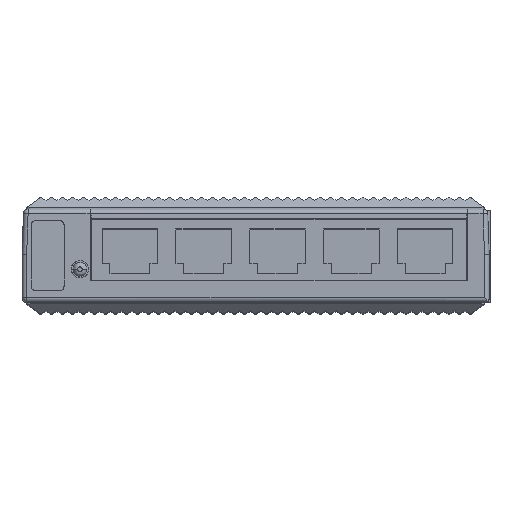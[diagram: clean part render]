
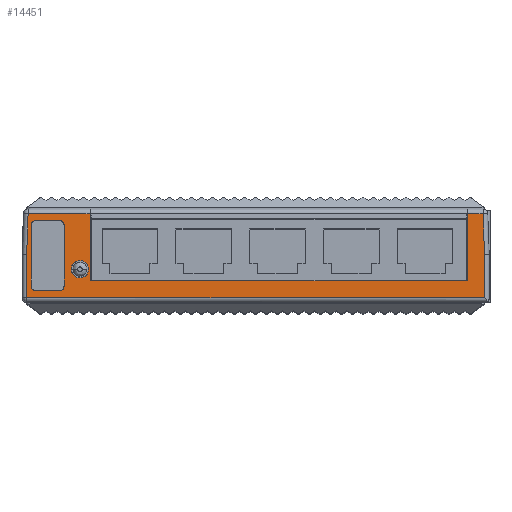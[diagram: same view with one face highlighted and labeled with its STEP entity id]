
A CAD part, top view. The second image highlights one B-rep face of the part: STEP entity #14451.
In plain terms, the highlighted planar face has unit normal (0, 0, 1).
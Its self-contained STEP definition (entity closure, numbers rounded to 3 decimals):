
#194=DIRECTION('',(1.,0.,0.));
#195=VECTOR('',#194,98.);
#196=CARTESIAN_POINT('',(-49.,-9.,39.));
#197=LINE('',#196,#195);
#225=CARTESIAN_POINT('',(-49.,0.233,39.));
#227=DIRECTION('',(0.,-1.,0.));
#228=VECTOR('',#227,9.233);
#229=CARTESIAN_POINT('',(-49.,0.233,39.));
#230=LINE('',#229,#228);
#3126=DIRECTION('',(0.,1.,0.));
#3127=VECTOR('',#3126,9.233);
#3128=CARTESIAN_POINT('',(49.,-9.,39.));
#3129=LINE('',#3128,#3127);
#3146=DIRECTION('',(-0.035,0.999,0.));
#3147=VECTOR('',#3146,8.773);
#3148=CARTESIAN_POINT('',(49.,0.233,39.));
#3149=LINE('',#3148,#3147);
#3161=CARTESIAN_POINT('',(49.,0.233,39.));
#3163=CARTESIAN_POINT('',(-42.,6.5,39.));
#3164=DIRECTION('',(0.,0.,1.));
#3165=DIRECTION('',(1.,0.,0.));
#3166=AXIS2_PLACEMENT_3D('',#3163,#3164,#3165);
#3168=DIRECTION('',(-1.,0.,0.));
#3169=VECTOR('',#3168,5.);
#3170=CARTESIAN_POINT('',(-42.,7.526,39.));
#3171=LINE('',#3170,#3169);
#3172=CARTESIAN_POINT('',(-47.,6.5,39.));
#3173=DIRECTION('',(0.,0.,1.));
#3174=DIRECTION('',(0.,1.,0.));
#3175=AXIS2_PLACEMENT_3D('',#3172,#3173,#3174);
#3177=DIRECTION('',(0.,-1.,0.));
#3178=VECTOR('',#3177,13.);
#3179=CARTESIAN_POINT('',(-48.026,6.5,39.));
#3180=LINE('',#3179,#3178);
#3181=CARTESIAN_POINT('',(-47.,-6.5,39.));
#3182=DIRECTION('',(0.,0.,1.));
#3183=DIRECTION('',(-1.,0.,0.));
#3184=AXIS2_PLACEMENT_3D('',#3181,#3182,#3183);
#3186=DIRECTION('',(1.,0.,0.));
#3187=VECTOR('',#3186,5.);
#3188=CARTESIAN_POINT('',(-47.,-7.526,39.));
#3189=LINE('',#3188,#3187);
#3190=CARTESIAN_POINT('',(-42.,-6.5,39.));
#3191=DIRECTION('',(0.,0.,1.));
#3192=DIRECTION('',(0.,-1.,0.));
#3193=AXIS2_PLACEMENT_3D('',#3190,#3191,#3192);
#3195=DIRECTION('',(1.,0.,0.));
#3196=VECTOR('',#3195,80.862);
#3197=CARTESIAN_POINT('',(-35.431,-5.384,39.));
#3198=LINE('',#3197,#3196);
#3199=DIRECTION('',(0.035,0.999,0.));
#3200=VECTOR('',#3199,8.773);
#3201=CARTESIAN_POINT('',(-49.,0.233,39.));
#3202=LINE('',#3201,#3200);
#3203=DIRECTION('',(0.,-1.,0.));
#3204=VECTOR('',#3203,13.);
#3205=CARTESIAN_POINT('',(-40.974,6.5,39.));
#3206=LINE('',#3205,#3204);
#3275=CARTESIAN_POINT('',(-37.6,-2.9,39.));
#3276=DIRECTION('',(0.,0.,-1.));
#3277=DIRECTION('',(-0.774,0.634,0.));
#3278=AXIS2_PLACEMENT_3D('',#3275,#3276,#3277);
#3324=CARTESIAN_POINT('',(-37.8,-2.9,39.));
#3325=DIRECTION('',(0.,0.,-1.));
#3326=DIRECTION('',(-0.724,-0.689,0.));
#3327=AXIS2_PLACEMENT_3D('',#3324,#3325,#3326);
#3477=CARTESIAN_POINT('',(45.431,9.,39.));
#3485=DIRECTION('',(0.,-1.,0.));
#3486=VECTOR('',#3485,14.384);
#3487=CARTESIAN_POINT('',(45.431,9.,39.));
#3488=LINE('',#3487,#3486);
#3497=DIRECTION('',(0.,1.,0.));
#3498=VECTOR('',#3497,14.384);
#3499=CARTESIAN_POINT('',(-35.431,-5.384,39.));
#3500=LINE('',#3499,#3498);
#3501=CARTESIAN_POINT('',(-35.431,9.,39.));
#3518=DIRECTION('',(-1.,0.,0.));
#3519=VECTOR('',#3518,3.263);
#3520=CARTESIAN_POINT('',(48.694,9.,39.));
#3521=LINE('',#3520,#3519);
#3522=DIRECTION('',(-1.,0.,0.));
#3523=VECTOR('',#3522,13.263);
#3524=CARTESIAN_POINT('',(-35.431,9.,39.));
#3525=LINE('',#3524,#3523);
#7841=CARTESIAN_POINT('',(-48.694,9.,39.));
#7842=VERTEX_POINT('',#7841);
#7847=CARTESIAN_POINT('',(48.694,9.,39.));
#7848=VERTEX_POINT('',#7847);
#7850=VERTEX_POINT('',#225);
#7852=VERTEX_POINT('',#3161);
#7857=CARTESIAN_POINT('',(-49.,-9.,39.));
#7858=VERTEX_POINT('',#7857);
#8166=CARTESIAN_POINT('',(49.,-9.,39.));
#8167=VERTEX_POINT('',#8166);
#8760=VERTEX_POINT('',#3477);
#8762=VERTEX_POINT('',#3501);
#8808=CARTESIAN_POINT('',(-39.035,-1.725,39.));
#8809=CARTESIAN_POINT('',(-39.035,-4.075,39.));
#8810=VERTEX_POINT('',#8808);
#8811=VERTEX_POINT('',#8809);
#9080=CARTESIAN_POINT('',(-47.,7.526,39.));
#9081=CARTESIAN_POINT('',(-48.026,6.5,39.));
#9082=VERTEX_POINT('',#9080);
#9083=VERTEX_POINT('',#9081);
#9084=CARTESIAN_POINT('',(-48.026,-6.5,39.));
#9085=VERTEX_POINT('',#9084);
#9086=CARTESIAN_POINT('',(-47.,-7.526,39.));
#9087=VERTEX_POINT('',#9086);
#9088=CARTESIAN_POINT('',(-42.,-7.526,39.));
#9089=VERTEX_POINT('',#9088);
#9090=CARTESIAN_POINT('',(-40.974,-6.5,39.));
#9091=VERTEX_POINT('',#9090);
#9092=CARTESIAN_POINT('',(-40.974,6.5,39.));
#9093=CARTESIAN_POINT('',(-42.,7.526,39.));
#9094=VERTEX_POINT('',#9092);
#9095=VERTEX_POINT('',#9093);
#9741=CARTESIAN_POINT('',(-35.431,-5.384,39.));
#9743=VERTEX_POINT('',#9741);
#9745=CARTESIAN_POINT('',(45.431,-5.384,39.));
#9747=VERTEX_POINT('',#9745);
#14404=CARTESIAN_POINT('',(0.,0.,39.));
#14405=DIRECTION('',(0.,0.,1.));
#14406=DIRECTION('',(1.,0.,0.));
#14407=AXIS2_PLACEMENT_3D('',#14404,#14405,#14406);
#14408=PLANE('',#14407);
#14410=ORIENTED_EDGE('',*,*,#14409,.F.);
#14412=ORIENTED_EDGE('',*,*,#14411,.T.);
#14414=ORIENTED_EDGE('',*,*,#14413,.F.);
#14416=ORIENTED_EDGE('',*,*,#14415,.F.);
#14417=ORIENTED_EDGE('',*,*,#14395,.F.);
#14418=ORIENTED_EDGE('',*,*,#14356,.F.);
#14419=ORIENTED_EDGE('',*,*,#10499,.F.);
#14420=ORIENTED_EDGE('',*,*,#10532,.F.);
#14422=ORIENTED_EDGE('',*,*,#14421,.T.);
#14424=ORIENTED_EDGE('',*,*,#14423,.F.);
#14425=EDGE_LOOP('',(#14410,#14412,#14414,#14416,#14417,#14418,#14419,#14420,
#14422,#14424));
#14426=FACE_OUTER_BOUND('',#14425,.F.);
#14428=ORIENTED_EDGE('',*,*,#14427,.F.);
#14430=ORIENTED_EDGE('',*,*,#14429,.T.);
#14432=ORIENTED_EDGE('',*,*,#14431,.T.);
#14434=ORIENTED_EDGE('',*,*,#14433,.T.);
#14436=ORIENTED_EDGE('',*,*,#14435,.T.);
#14438=ORIENTED_EDGE('',*,*,#14437,.T.);
#14440=ORIENTED_EDGE('',*,*,#14439,.T.);
#14442=ORIENTED_EDGE('',*,*,#14441,.T.);
#14443=EDGE_LOOP('',(#14428,#14430,#14432,#14434,#14436,#14438,#14440,#14442));
#14444=FACE_BOUND('',#14443,.F.);
#14446=ORIENTED_EDGE('',*,*,#14445,.F.);
#14448=ORIENTED_EDGE('',*,*,#14447,.F.);
#14449=EDGE_LOOP('',(#14446,#14448));
#14450=FACE_BOUND('',#14449,.F.);
#14451=ADVANCED_FACE('',(#14426,#14444,#14450),#14408,.T.);
#3167=CIRCLE('',#3166,1.026);
#3176=CIRCLE('',#3175,1.026);
#3185=CIRCLE('',#3184,1.026);
#3194=CIRCLE('',#3193,1.026);
#3279=CIRCLE('',#3278,1.855);
#3328=CIRCLE('',#3327,1.705);
#10499=EDGE_CURVE('',#7858,#8167,#197,.T.);
#10532=EDGE_CURVE('',#7850,#7858,#230,.T.);
#14356=EDGE_CURVE('',#8167,#7852,#3129,.T.);
#14395=EDGE_CURVE('',#7852,#7848,#3149,.T.);
#14409=EDGE_CURVE('',#9743,#8762,#3500,.T.);
#14411=EDGE_CURVE('',#9743,#9747,#3198,.T.);
#14413=EDGE_CURVE('',#8760,#9747,#3488,.T.);
#14415=EDGE_CURVE('',#7848,#8760,#3521,.T.);
#14421=EDGE_CURVE('',#7850,#7842,#3202,.T.);
#14423=EDGE_CURVE('',#8762,#7842,#3525,.T.);
#14427=EDGE_CURVE('',#9094,#9091,#3206,.T.);
#14429=EDGE_CURVE('',#9094,#9095,#3167,.T.);
#14431=EDGE_CURVE('',#9095,#9082,#3171,.T.);
#14433=EDGE_CURVE('',#9082,#9083,#3176,.T.);
#14435=EDGE_CURVE('',#9083,#9085,#3180,.T.);
#14437=EDGE_CURVE('',#9085,#9087,#3185,.T.);
#14439=EDGE_CURVE('',#9087,#9089,#3189,.T.);
#14441=EDGE_CURVE('',#9089,#9091,#3194,.T.);
#14445=EDGE_CURVE('',#8810,#8811,#3279,.T.);
#14447=EDGE_CURVE('',#8811,#8810,#3328,.T.);
